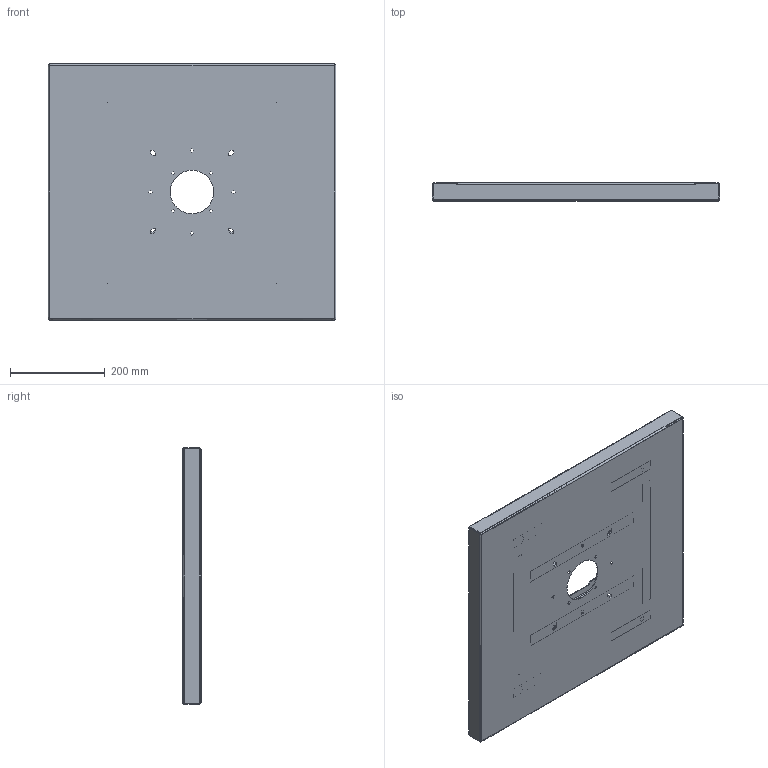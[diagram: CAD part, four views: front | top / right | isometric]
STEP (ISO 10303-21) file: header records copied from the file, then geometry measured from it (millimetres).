
FILE_DESCRIPTION((''),'2;1');
FILE_NAME('D:\scratch\ideas\87555457.stp','2009-05-20T13:54:16',( 'User'),('SDRC'),'I-DEAS Master Series 9','UNIX','Yes');
FILE_SCHEMA(('AUTOMOTIVE_DESIGN { 1 0 10303 214 0 1 1 1 }'));
Length unit declared in the file: inch
Products named in the file (3): 87555457; 47401101; 87555456
Assembly tree (2 placements, depth 2):
  87555457
    47401101
    87555456
Bounding box: 608 x 38.1 x 541.88 mm (x, y, z)
Volume: 1126663.2 mm3; surface area: 1250809.4 mm2
Topology: 2 solids, 2 shells, 361 faces, 1057 edges, 745 vertices
Faces by surface type: bspline 361
Entity records: 13710 total; most frequent: CARTESIAN_POINT 6638, ORIENTED_EDGE 1914, EDGE_CURVE 957, VERTEX_POINT 600, EDGE_LOOP 557, OVER_RIDING_STYLED_ITEM 552, STYLED_ITEM 525, QUASI_UNIFORM_CURVE 441
